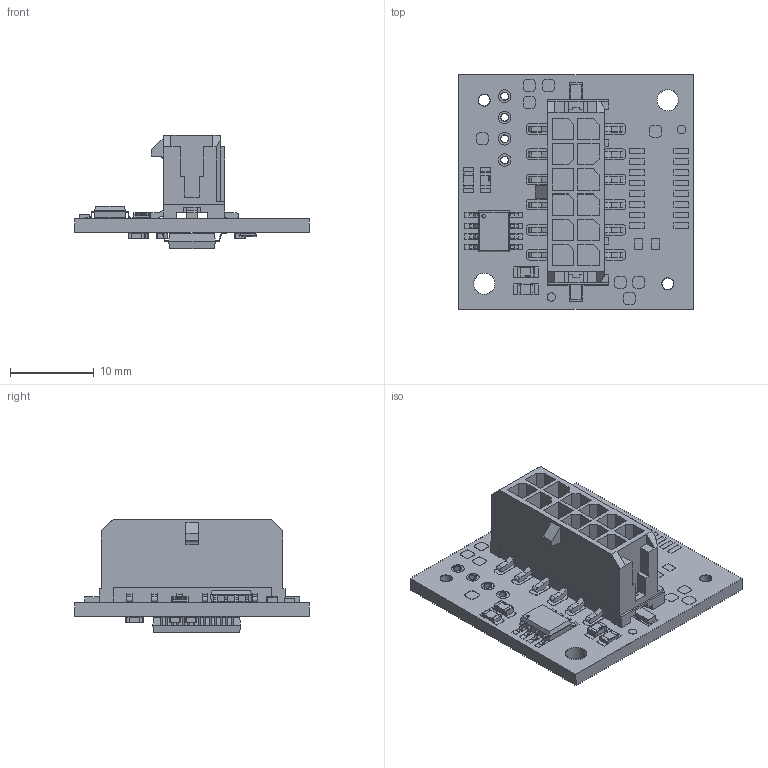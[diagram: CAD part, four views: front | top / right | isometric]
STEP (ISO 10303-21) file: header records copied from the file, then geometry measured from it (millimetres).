
FILE_DESCRIPTION (( 'STEP AP214' ), '1' );
FILE_NAME ('RMB28SSI_INC_AM4096_MODM370.STEP', '2019-12-04T15:04:20', ( '' ), ( '' ), 'SwSTEP 2.0', 'SolidWorks 2016', '' );
FILE_SCHEMA (( 'AUTOMOTIVE_DESIGN' ));
Length unit declared in the file: millimetre
Products named in the file (1): RMB28SSI_INC_AM4096_MODM370
Bounding box: 28 x 28 x 13.57 mm (x, y, z)
Volume: 2275 mm3; surface area: 4641.7 mm2
Topology: 181 solids, 181 shells, 3137 faces, 7858 edges, 5110 vertices
Faces by surface type: plane 2188, bspline 480, cylinder 469
Entity records: 163059 total; most frequent: CARTESIAN_POINT 54818, ORIENTED_EDGE 15588, DIRECTION 12824, EDGE_CURVE 7794, LINE 6016, VECTOR 6016, VERTEX_POINT 5110, AXIS2_PLACEMENT_3D 3404
